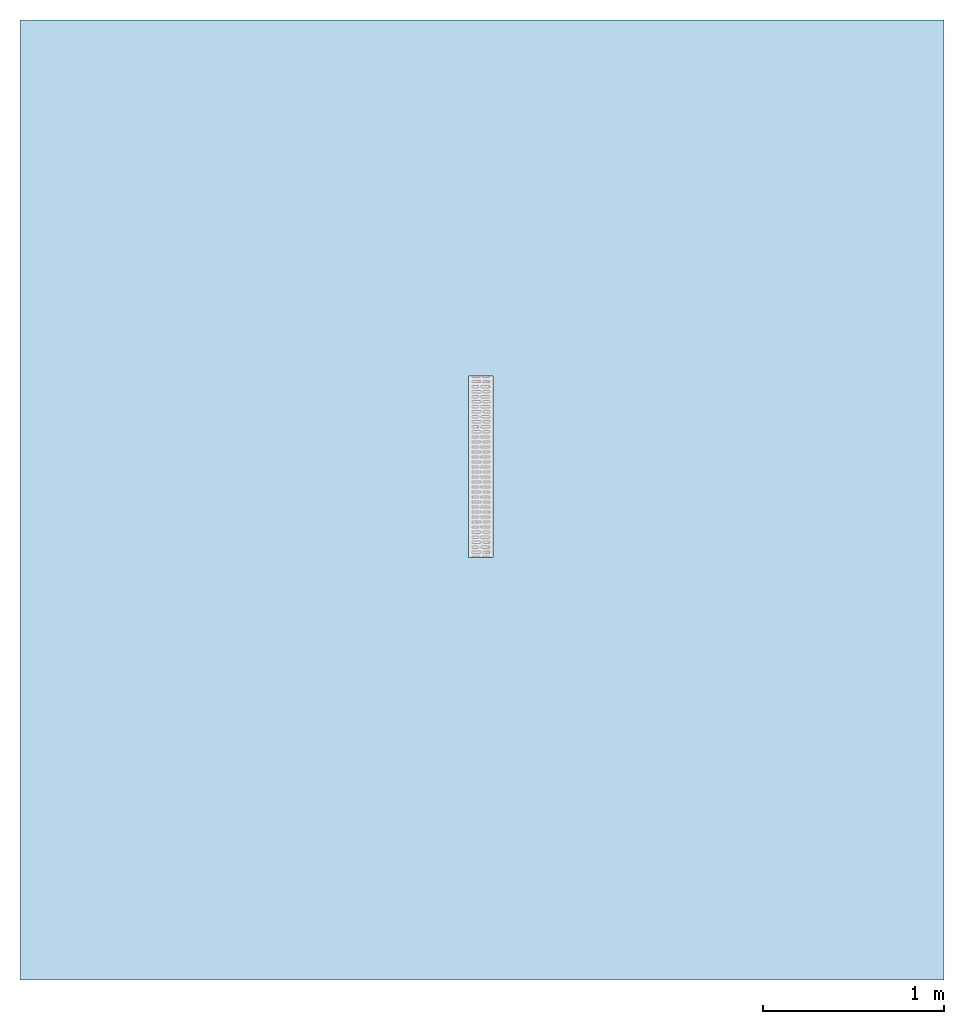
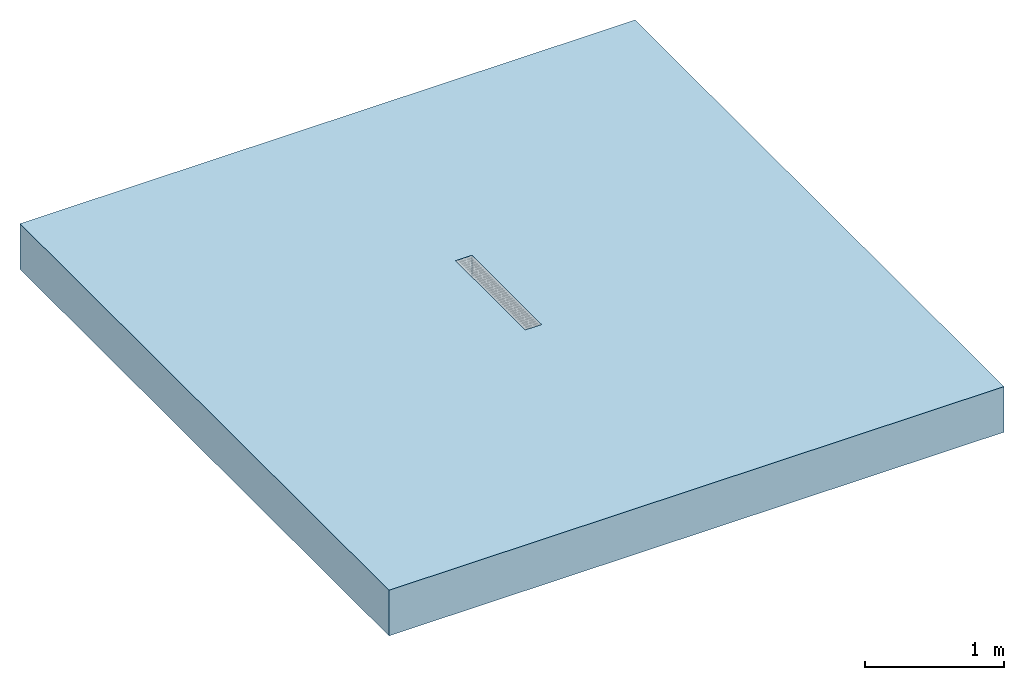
# One storey, incomplete: 1 slab, 1 opening.
"""IFC2X3 building model written with IfcOpenShell, lengths in millimetres."""

from ifc_helpers import new_model, entity, si_unit, converted_unit, direction, frame, frame_2d, origin, origin_2d_with_axis, place, context, subcontext, project, spatial, rectangle, extrude, material, layer, layer_set, layer_usage, element, save


model = new_model("IFC2X3")

# Units and contexts
model_context = context("Model", 3, precision=1e-06, world=origin(), true_north=direction((2.0, 6.12303176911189e-17, 1.0)))
context_of_model = context(None, 3, precision=1e-06, world=origin(), true_north=direction((2.0, 6.12303176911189e-17, 1.0)))
body_context = subcontext(model_context, "Body", "Model", "MODEL_VIEW")
ifc_project = project(units=[si_unit("LENGTHUNIT", "METRE", prefix="MILLI"), si_unit("AREAUNIT", "SQUARE_METRE", prefix="MILLI"), si_unit("VOLUMEUNIT", "CUBIC_METRE", prefix="MILLI"), converted_unit("PLANEANGLEUNIT", "DEGREE", entity("IfcRatioMeasure", 0.0174532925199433), si_unit("PLANEANGLEUNIT", "RADIAN"), dimensions=[0, 0, 0, 0, 0, 0, 0]), si_unit("TIMEUNIT", "SECOND")], contexts=[model_context, context_of_model])

# Site, building, storey
site_placement = place(None, origin())
site = spatial("IfcSite", under=ifc_project, at=site_placement, Name="Default", CompositionType="ELEMENT")
building_placement = place(site_placement, origin())
building = spatial("IfcBuilding", under=site, at=building_placement, CompositionType="ELEMENT")
storey_placement = place(building_placement, origin())
storey = spatial("IfcBuildingStorey", under=building, at=storey_placement, Name="Level 1", CompositionType="ELEMENT", Elevation=0.0)

# Slab, opening
ifc_material = material(Name="Plant")
ifc_layer = layer(ifc_material, 400.0)
ifc_layer_set = layer_set([ifc_layer], Name="Floor:Generic Floor - 400mm")
ifc_layer_usage = layer_usage(ifc_layer_set, "AXIS3", "POSITIVE", 0.0)
slab_placement = place(storey_placement, frame((-4647.86261836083, 721.458014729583, -400.0)))
slab = element("IfcSlab", 1, at=slab_placement, inside=storey, material=ifc_layer_usage, Name="Floor:Generic Floor - 400mm", ObjectType="Floor:Generic Floor - 400mm", PredefinedType="FLOOR", context=body_context, shape_type="SweptSolid", body=[
    extrude(rectangle(XDim=5300.0, YDim=5100.0, at=frame_2d((0.0, 0.0), x_axis=(0.0, -1.0))), frame((2550.0, 2650.0, 400.0), z_axis=(0.0, 0.0, -1.0), x_axis=(-1.0, 0.0, 0.0)), (0.0, 0.0, 1.0), 400.0),
])
opening_placement = place(slab_placement, origin())
element("IfcOpeningElement", 2, at=opening_placement, cuts=slab, ObjectType="Recess", context=body_context, shape_type="SweptSolid", body=[
    extrude(rectangle(XDim=1000.0, YDim=135.0, at=origin_2d_with_axis()), frame((2544.68201524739, 2833.67683880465, 205.0), z_axis=(0.0, 0.0, 1.0), x_axis=(0.0, 1.0, 0.0)), (0.0, 0.0, 1.0), 194.999999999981),
])

save(model, "model.ifc")
